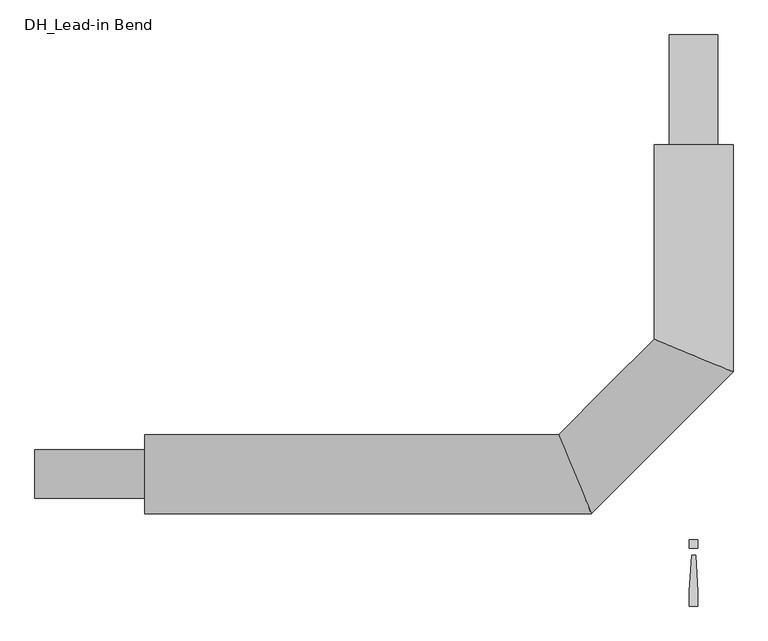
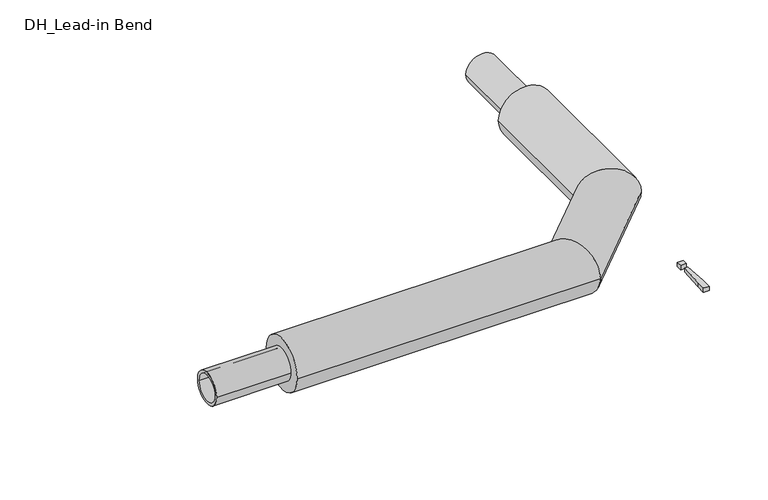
"""IFC4 building model written with IfcOpenShell, lengths in millimetres: pipe fitting geometry, DH_Lead-in Bend : INSULPEX UNO + 11 Heating."""

import ifcopenshell
import ifcopenshell.guid

model = None  # the IFC model being written
_history = None  # IfcOwnerHistory: only IFC2X3 demands one
_inside = {}  # id of a spatial element -> (the spatial element, [elements in it])
_under = {}  # id of a project, library or spatial element -> (it, [spatial elements below it])
_declared = {}  # id of a project -> (the project, [libraries it declares])
_typed = {}  # id of a type object -> (the type object, [elements of that type])
_made_of = {}  # id of a material, layer set ... -> (it, [elements and type objects made of it])


def new_model(schema):
    """Start an empty IFC model of exactly this schema.

    Asked for "IFC4X3", IfcOpenShell would pick the latest addendum, in which some entities
    have other attributes; the version numbers below select the first issue.
    IFC2X3 requires an IfcOwnerHistory on every rooted entity: one is made here for all.
    """
    global model, _history
    if schema == "IFC4X3":
        model = ifcopenshell.file(schema_version=(4, 3, 0, 0))
    else:
        model = ifcopenshell.file(schema=schema)
    _inside.clear()
    _under.clear()
    _declared.clear()
    _typed.clear()
    _made_of.clear()
    _history = None
    if model.schema == "IFC2X3":
        org = make("IfcOrganization", Name="unknown")
        user = make(
            "IfcPersonAndOrganization",
            ThePerson=make("IfcPerson", FamilyName="unknown"),
            TheOrganization=org,
        )
        app = make(
            "IfcApplication",
            ApplicationDeveloper=org,
            Version="unknown",
            ApplicationFullName="unknown",
            ApplicationIdentifier="unknown",
        )
        _history = make(
            "IfcOwnerHistory",
            OwningUser=user,
            OwningApplication=app,
            ChangeAction="ADDED",
            CreationDate=0,
        )
    return model


def make(cls, **values):
    """One entity of the class cls with the attributes given. An attribute that is None is left unset."""
    return model.create_entity(
        cls, **{name: value for name, value in values.items() if value is not None}
    )


def rooted(cls, **values):
    """An entity with a GlobalId (a new one), such as an element, a storey or a relation."""
    return make(cls, GlobalId=ifcopenshell.guid.new(), OwnerHistory=_history, **values)


def si_unit(unit_type, name, prefix=None):
    """IfcSIUnit, for example si_unit("LENGTHUNIT", "METRE", prefix="MILLI")."""
    return make("IfcSIUnit", UnitType=unit_type, Prefix=prefix, Name=name)


def assignment(units):
    """IfcUnitAssignment: the units of a project."""
    return None if units is None else make("IfcUnitAssignment", Units=units)


def point(xyz):
    """IfcCartesianPoint."""
    return None if xyz is None else make("IfcCartesianPoint", Coordinates=xyz)


def direction(xyz):
    """IfcDirection."""
    return None if xyz is None else make("IfcDirection", DirectionRatios=xyz)


def frame(location, z_axis=None, x_axis=None):
    """IfcAxis2Placement3D, a coordinate frame: its origin and axes. An axis left out is left unset."""
    return make(
        "IfcAxis2Placement3D",
        Location=point(location),
        Axis=direction(z_axis),
        RefDirection=direction(x_axis),
    )


def frame_2d(location, x_axis=None):
    """IfcAxis2Placement2D, a coordinate frame in the plane: its origin and x axis."""
    return make(
        "IfcAxis2Placement2D", Location=point(location), RefDirection=direction(x_axis)
    )


def origin():
    """The frame at (0, 0, 0) with its axes left unset."""
    return frame((0.0, 0.0, 0.0))


def origin_with_axes():
    """The frame at (0, 0, 0) with the z axis (0, 0, 1) and the x axis (1, 0, 0) written out."""
    return frame((0.0, 0.0, 0.0), z_axis=(0.0, 0.0, 1.0), x_axis=(1.0, 0.0, 0.0))


def origin_2d():
    """The frame at (0, 0) in the plane with its x axis left unset."""
    return frame_2d((0.0, 0.0))


def place(relative_to, where):
    """IfcLocalPlacement: puts the frame where relative to a parent placement (None: the world)."""
    return make(
        "IfcLocalPlacement", PlacementRelTo=relative_to, RelativePlacement=where
    )


def context(
    kind, dimensions, precision=None, world=None, true_north=None, identifier=None
):
    """IfcGeometricRepresentationContext, for example the 3D "Model" context."""
    return make(
        "IfcGeometricRepresentationContext",
        ContextIdentifier=identifier,
        ContextType=kind,
        CoordinateSpaceDimension=dimensions,
        Precision=precision,
        WorldCoordinateSystem=world,
        TrueNorth=true_north,
    )


def project(units=None, contexts=None):
    """IfcProject with its units and contexts."""
    return rooted(
        "IfcProject",
        Name="project",
        RepresentationContexts=contexts,
        UnitsInContext=assignment(units),
    )


def spatial(cls, under=None, at=None, **own):
    """A site, building, storey or space (cls), placed at a placement, below another one or the project."""
    s = rooted(cls, ObjectPlacement=at, **own)
    if under is not None:
        _under.setdefault(under.id(), (under, []))[1].append(s)
    return s


def polyline(points):
    """IfcPolyline through the points."""
    return make("IfcPolyline", Points=[point(p) for p in points])


def circle_curve(where, radius):
    """IfcCircle in the frame where."""
    return make("IfcCircle", Position=where, Radius=radius)


def ellipse_curve(where, semi_axis1, semi_axis2):
    """IfcEllipse in the frame where."""
    return make(
        "IfcEllipse", Position=where, SemiAxis1=semi_axis1, SemiAxis2=semi_axis2
    )


def trimmed(basis, trim1, trim2, sense, master):
    """IfcTrimmedCurve: the piece of a basis curve between two trims."""
    return make(
        "IfcTrimmedCurve",
        BasisCurve=basis,
        Trim1=trim1,
        Trim2=trim2,
        SenseAgreement=sense,
        MasterRepresentation=master,
    )


def segment(curve, same_sense, transition):
    """IfcCompositeCurveSegment."""
    return make(
        "IfcCompositeCurveSegment",
        Transition=transition,
        SameSense=same_sense,
        ParentCurve=curve,
    )


def composite_curve(segments, self_intersect=None):
    """IfcCompositeCurve: segments joined end to end."""
    return make("IfcCompositeCurve", Segments=segments, SelfIntersect=self_intersect)


def outline(outer, holes=None, kind="AREA"):
    """IfcArbitraryClosedProfileDef: a profile drawn as a closed curve; with holes, ...WithVoids."""
    if holes is None:
        return make("IfcArbitraryClosedProfileDef", ProfileType=kind, OuterCurve=outer)
    return make(
        "IfcArbitraryProfileDefWithVoids",
        ProfileType=kind,
        OuterCurve=outer,
        InnerCurves=holes,
    )


def extrude(swept, where, along, depth):
    """IfcExtrudedAreaSolid: the profile swept, set in the frame where, extruded along a direction by depth."""
    return make(
        "IfcExtrudedAreaSolid",
        SweptArea=swept,
        Position=where,
        ExtrudedDirection=direction(along),
        Depth=depth,
    )


def shape(context_of_items, identifier, shape_type, items):
    """IfcShapeRepresentation: the items that make up one representation, for example the "Body"."""
    return make(
        "IfcShapeRepresentation",
        ContextOfItems=context_of_items,
        RepresentationIdentifier=identifier,
        RepresentationType=shape_type,
        Items=items,
    )


def source(mapping_origin, context_of_items, identifier, shape_type, items):
    """IfcRepresentationMap: a shape defined once, which mapped items show again and again."""
    return make(
        "IfcRepresentationMap",
        MappingOrigin=mapping_origin,
        MappedRepresentation=shape(context_of_items, identifier, shape_type, items),
    )


def transform(
    local_origin,
    x_axis=None,
    y_axis=None,
    z_axis=None,
    scale=None,
    scale2=None,
    scale3=None,
    uniform=True,
):
    """IfcCartesianTransformationOperator3D, or its non-uniform kind. x_axis, y_axis, z_axis: its Axis1, 2, 3."""
    if uniform:
        return make(
            "IfcCartesianTransformationOperator3D",
            Axis1=direction(x_axis),
            Axis2=direction(y_axis),
            LocalOrigin=point(local_origin),
            Scale=scale,
            Axis3=direction(z_axis),
        )
    return make(
        "IfcCartesianTransformationOperator3DnonUniform",
        Axis1=direction(x_axis),
        Axis2=direction(y_axis),
        LocalOrigin=point(local_origin),
        Scale=scale,
        Axis3=direction(z_axis),
        Scale2=scale2,
        Scale3=scale3,
    )


def mapped(mapping_source, mapping_target):
    """IfcMappedItem: shows the shape of a source again, moved by a transform."""
    return make(
        "IfcMappedItem", MappingSource=mapping_source, MappingTarget=mapping_target
    )


def made_of(thing, what):
    """Note that an element or type object is made of a material, layer set ...; save() writes the relation."""
    if what is not None:
        _made_of.setdefault(what.id(), (what, []))[1].append(thing)
    return thing


def element(
    cls,
    number,
    at=None,
    inside=None,
    cuts=None,
    type_object=None,
    material=None,
    context=None,
    identifier="Body",
    shape_type=None,
    held_by="IfcProductDefinitionShape",
    body=None,
    shapes=None,
    **own,
):
    """One element of the class cls, such as IfcWall. Its Tag is "e" and its number.

    at: its placement. inside: the storey or other place that contains it. cuts: it is an
    opening in that element (IfcRelVoidsElement). A single representation is given by context,
    identifier, shape_type and body (its items); several are given by shapes. held_by: the class
    of the entity that holds the representations. save() writes the other relations.
    """
    e = rooted(cls, Tag="e%d" % number, ObjectPlacement=at, **own)
    if body is not None:
        shapes = [shape(context, identifier, shape_type, body)]
    if shapes is not None:
        e.Representation = make(held_by, Representations=shapes)
    if inside is not None:
        _inside.setdefault(inside.id(), (inside, []))[1].append(e)
    if cuts is not None:
        rooted(
            "IfcRelVoidsElement", RelatingBuildingElement=cuts, RelatedOpeningElement=e
        )
    if type_object is not None:
        _typed.setdefault(type_object.id(), (type_object, []))[1].append(e)
    return made_of(e, material)


def aggregate(whole, parts):
    """IfcRelAggregates: a whole, such as a stair, and the parts it consists of."""
    return rooted("IfcRelAggregates", RelatingObject=whole, RelatedObjects=parts)


def save(model, path):
    """Write the relations noted so far, then the file.

    IfcRelAggregates (storeys below a building ...), IfcRelContainedInSpatialStructure (elements
    in a storey), IfcRelDefinesByType, IfcRelAssociatesMaterial and IfcRelDeclares: one each for
    every whole, place, type object, material and project.
    """
    for whole, parts in _under.values():
        aggregate(whole, parts)
    for where, things in _inside.values():
        rooted(
            "IfcRelContainedInSpatialStructure",
            RelatedElements=things,
            RelatingStructure=where,
        )
    for kind, things in _typed.values():
        rooted("IfcRelDefinesByType", RelatedObjects=things, RelatingType=kind)
    for what, things in _made_of.values():
        rooted("IfcRelAssociatesMaterial", RelatedObjects=things, RelatingMaterial=what)
    for by, libraries in _declared.values():
        rooted("IfcRelDeclares", RelatingContext=by, RelatedDefinitions=libraries)
    model.write(path)


def plane_surface(at):
    """IfcPlane: the flat surface through the origin of the frame at, square to its z axis."""
    return make("IfcPlane", Position=at)


def cylinder_surface(at, radius):
    """IfcCylindricalSurface: all points at the distance radius from the z axis of the frame at."""
    return make("IfcCylindricalSurface", Position=at, Radius=radius)


def advanced_brep(points, edges, surfaces, faces):
    """IfcAdvancedBrep: a solid bounded by faces that lie on surfaces and meet in shared edges.

    An edge is (start, end): straight between two places in points (the first is 0);
    or (start, end, curve); or (start, end, curve, False) where it runs against its curve.
    A face is (place in surfaces, loops), or (place, loops, False) where it looks against
    its surface's normal. A loop lists edges by number (the first is 1), with a minus sign
    where the edge is run from its end to its start. The first loop is the outer one.
    """
    corners = [point(p) for p in points]
    vertices = [make("IfcVertexPoint", VertexGeometry=c) for c in corners]
    made = []
    for start, end, *more in edges:
        made.append(
            make(
                "IfcEdgeCurve",
                EdgeStart=vertices[start],
                EdgeEnd=vertices[end],
                EdgeGeometry=more[0] if more else make("IfcPolyline", Points=[corners[start], corners[end]]),
                SameSense=more[1] if len(more) > 1 else True,
            )
        )
    hull = []
    for where, loops, *sense in faces:
        bounds = []
        for j, loop in enumerate(loops):
            ring = [make("IfcOrientedEdge", EdgeElement=made[abs(k) - 1], Orientation=k > 0) for k in loop]
            bounds.append(
                make(
                    "IfcFaceOuterBound" if j == 0 else "IfcFaceBound",
                    Bound=make("IfcEdgeLoop", EdgeList=ring),
                    Orientation=True,
                )
            )
        hull.append(make("IfcAdvancedFace", Bounds=bounds, FaceSurface=surfaces[where], SameSense=sense[0] if sense else True))
    return make("IfcAdvancedBrep", Outer=make("IfcClosedShell", CfsFaces=hull))


def dh_lead_in_bend_4391f219(model_context):
    return source(origin(), model_context, "Body", "SolidModel", [
        advanced_brep(
        [(-1250.0, -90.0, 0.0), (-1250.0, 90.0, 0.0), (-232.7207794, -90.0, 0.0), (-307.2792206, 90.0, 0.0), (90.0, 750.0, 0.0), (-90.0, 750.0, 0.0), (-90.0, 307.2792206, 0.0), (90.0, 232.7207794, 0.0)],
        [
            (0, 1, circle_curve(frame((-1250.0, 0.0, 0.0), z_axis=(-1.0, 0.0, 0.0), x_axis=(0.0, 1.0, 0.0)), 90.0)),
            (1, 0, circle_curve(frame((-1250.0, 0.0, 0.0), z_axis=(-1.0, 0.0, 0.0), x_axis=(0.0, 1.0, 0.0)), 90.0)),
            (0, 2),
            (2, 3, ellipse_curve(frame((-270.0, 0.0, 0.0), z_axis=(-0.9238795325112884, -0.38268343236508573, 0.0), x_axis=(-0.3826834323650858, 0.9238795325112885, 0.0)), 97.415298, 90.0)),
            (3, 1),
            (3, 2, ellipse_curve(frame((-270.0, 0.0, 0.0), z_axis=(-0.9238795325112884, -0.38268343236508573, 0.0), x_axis=(-0.3826834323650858, 0.9238795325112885, 0.0)), 97.415298, 90.0)),
            (4, 5, circle_curve(frame((0.0, 750.0, 0.0), z_axis=(0.0, 1.0, 0.0), x_axis=(-1.0, 0.0, 0.0)), 90.0)),
            (5, 4, circle_curve(frame((0.0, 750.0, 0.0), z_axis=(0.0, 1.0, 0.0), x_axis=(-1.0, 0.0, 0.0)), 90.0)),
            (6, 7, ellipse_curve(frame((0.0, 270.0, 0.0), z_axis=(0.38268343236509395, 0.9238795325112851, 0.0), x_axis=(0.9238795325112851, -0.38268343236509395, 0.0)), 97.415298, 90.0)),
            (7, 4),
            (5, 6),
            (7, 6, ellipse_curve(frame((0.0, 270.0, 0.0), z_axis=(0.38268343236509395, 0.9238795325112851, 0.0), x_axis=(0.9238795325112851, -0.38268343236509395, 0.0)), 97.415298, 90.0)),
            (2, 7),
            (6, 3),
        ],
        [
            plane_surface(frame((-1250.0, 0.0, 0.0), z_axis=(-1.0, 0.0, 0.0), x_axis=(0.0, 0.0, 1.0))),
            cylinder_surface(frame((-1250.0, 0.0, 0.0), z_axis=(-1.0, 0.0, 0.0), x_axis=(0.0, 1.0, 0.0)), 90.0),
            plane_surface(frame((0.0, 750.0, 0.0), z_axis=(0.0, 1.0, 0.0), x_axis=(0.0, 0.0, 1.0))),
            cylinder_surface(frame((0.0, 270.0, 0.0), z_axis=(0.0, -1.0, 0.0), x_axis=(-1.0, 0.0, 0.0)), 90.0),
            cylinder_surface(frame((-270.0, 0.0, 0.0), z_axis=(-0.7071067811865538, -0.7071067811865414, 0.0), x_axis=(-0.7071067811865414, 0.7071067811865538, 0.0)), 90.0),
        ],
        [
            (0, [[1, 2]]),
            (1, [[-1, 3, 4, 5]]),
            (1, [[-2, -5, 6, -3]]),
            (2, [[7, 8]]),
            (3, [[9, 10, -8, 11]]),
            (3, [[12, -11, -7, -10]]),
            (4, [[-4, 13, -9, 14]]),
            (4, [[-6, -14, -12, -13]]),
        ],
    ),
        extrude(outline(polyline([(4.7088895, -185.3166715), (9.4177791, -266.6553807), (9.4177791, -300.6844652), (-9.4177791, -300.6844652), (-9.4177791, -266.6553807), (-4.7088895, -185.3166715), (4.7088895, -185.3166715)])), origin_with_axes(), (0.0, 0.0, 1.0), 15.0),
        extrude(outline(polyline([(9.4177791, -150.0), (9.4177791, -168.8355582), (-9.4177791, -168.8355582), (-9.4177791, -150.0), (9.4177791, -150.0)])), origin_with_axes(), (0.0, 0.0, 1.0), 15.0),
        extrude(outline(composite_curve([segment(trimmed(circle_curve(origin_2d(), 55.0), [point((-55.0, 0.0))], [point((55.0, 0.0))], False, "CARTESIAN"), True, "CONTINUOUS"), segment(trimmed(circle_curve(origin_2d(), 55.0), [point((55.0, 0.0))], [point((-55.0, 0.0))], False, "CARTESIAN"), True, "CONTINUOUS")], self_intersect=False), holes=[composite_curve([segment(trimmed(circle_curve(origin_2d(), 45.0), [point((-45.0, 0.0))], [point((45.0, 0.0))], True, "CARTESIAN"), True, "CONTINUOUS"), segment(trimmed(circle_curve(origin_2d(), 45.0), [point((45.0, 0.0))], [point((-45.0, 0.0))], True, "CARTESIAN"), True, "CONTINUOUS")], self_intersect=False)]), frame((-1500.0, 0.0, 0.0), z_axis=(1.0, 0.0, 0.0), x_axis=(0.0, 1.0, 0.0)), (0.0, 0.0, 1.0), 250.0),
        extrude(outline(composite_curve([segment(trimmed(circle_curve(origin_2d(), 55.0), [point((0.0, 55.0))], [point((0.0, -55.0))], False, "CARTESIAN"), True, "CONTINUOUS"), segment(trimmed(circle_curve(origin_2d(), 55.0), [point((0.0, -55.0))], [point((0.0, 55.0))], False, "CARTESIAN"), True, "CONTINUOUS")], self_intersect=False), holes=[composite_curve([segment(trimmed(circle_curve(origin_2d(), 45.0), [point((0.0, 45.0))], [point((0.0, -45.0))], True, "CARTESIAN"), True, "CONTINUOUS"), segment(trimmed(circle_curve(origin_2d(), 45.0), [point((0.0, -45.0))], [point((0.0, 45.0))], True, "CARTESIAN"), True, "CONTINUOUS")], self_intersect=False)]), frame((0.0, 750.0, 0.0), z_axis=(0.0, 1.0, 0.0), x_axis=(0.0, 0.0, 1.0)), (0.0, 0.0, 1.0), 250.0),
    ])


if __name__ == "__main__":
    model = new_model("IFC4")
    model_context = context("Model", 3, world=origin())
    ifc_project = project(units=[si_unit("LENGTHUNIT", "METRE", prefix="MILLI")], contexts=[model_context])
    site = spatial("IfcSite", under=ifc_project)
    building = spatial("IfcBuilding", under=site)
    placement = place(None, origin())
    dh_lead_in_bend_shape = dh_lead_in_bend_4391f219(model_context)
    element("IfcPipeFitting", 1, ObjectType="DH_Lead-in Bend : INSULPEX UNO + 11 Heating", at=placement, inside=building, context=model_context, shape_type="MappedRepresentation", body=[
        mapped(dh_lead_in_bend_shape, transform((0.0, 0.0, 0.0), x_axis=(1.0, 0.0, 0.0), y_axis=(0.0, 1.0, 0.0), z_axis=(0.0, 0.0, 1.0))),
    ])
    save(model, "model.ifc")
